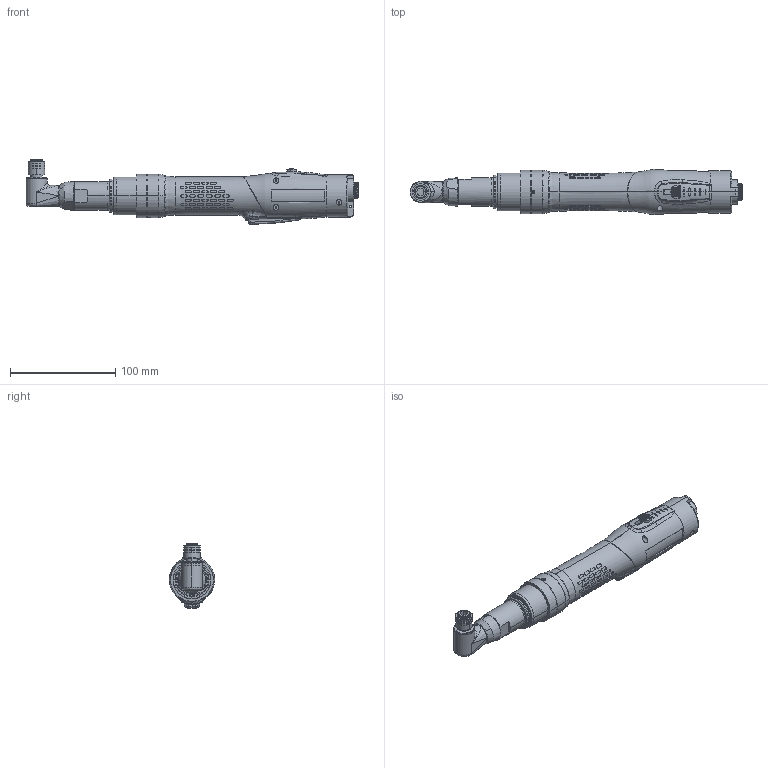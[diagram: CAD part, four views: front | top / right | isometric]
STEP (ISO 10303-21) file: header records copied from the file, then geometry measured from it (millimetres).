
FILE_DESCRIPTION((''),'2;1');
FILE_NAME('ASSY_SLB_LSMED_ASM','2012-10-26T',('GREDD'),(''),'PRO/ENGINEER BY PARAMETRIC TECHNOLOGY CORPORATION, 2010330','PRO/ENGINEER BY PARAMETRIC TECHNOLOGY CORPORATION, 2010330','');
FILE_SCHEMA(('AUTOMOTIVE_DESIGN_CC2 { 1 2 10303 214 -1 1 5 2 }'));
Products named in the file (30): 6155481530; INT_MED; 6156700770; 6158207190; 467523; 6156190470; 6153601750; 6155732240; 467543; PLMC_4110140400; PLMC_4110140700; PLMC_4210236600; PLMC_0502010010; PLMC_4110140600; PLMC_4210236680_ASM; PLMC_4090027100; PLMC_0663611900; PLMC_4210293403; PLMC_0335351004; PLMC_4210232700_MED; PLMC_4210232600_MED; PLMC_0517115500; PLMC_4210189300_MED; PLMC_4210293483_ASM; PLMC_4110140479_ASM; SLB_CP500L_G; REV_BUTTON; SLB_CP500L_D; SLB_TOOL_LS_MED_ASM; ASSY_SLB_LSMED_ASM
Assembly tree (32 placements, depth 4):
  ASSY_SLB_LSMED_ASM
    6155481530
    INT_MED
    6156700770
    6158207190
    467523
    6156190470
    6153601750
    6155732240
    467543
    PLMC_4110140479_ASM
      PLMC_4110140400
      PLMC_4110140700
      PLMC_4210236680_ASM
        PLMC_4210236600
        PLMC_0502010010
        PLMC_4110140600
      PLMC_4090027100
      PLMC_0663611900
      PLMC_4210293483_ASM
        PLMC_4210293403
        PLMC_0502010010
        PLMC_4110140600
        PLMC_0335351004
        PLMC_4210232700_MED
        PLMC_4210232600_MED
        PLMC_0517115500
        PLMC_4210189300_MED
    SLB_TOOL_LS_MED_ASM
      INT_MED
      SLB_CP500L_G
      REV_BUTTON
      SLB_CP500L_D
Bounding box: 315.5 x 43.08 x 61.48 mm (x, y, z)
Volume: 336476.8 mm3; surface area: 132061.2 mm2
Topology: 28 solids, 37 shells, 1923 faces, 4835 edges, 3081 vertices
Faces by surface type: plane 720, cylinder 714, cone 157, revolution 105, torus 100, bspline 90, sphere 35, extrusion 2
Entity records: 85958 total; most frequent: CARTESIAN_POINT 36296, ORIENTED_EDGE 8970, DIRECTION 8285, EDGE_CURVE 4511, AXIS2_PLACEMENT_3D 3175, VERTEX_POINT 2907, EDGE_LOOP 2014, PRESENTATION_STYLE_ASSIGNMENT 1837
